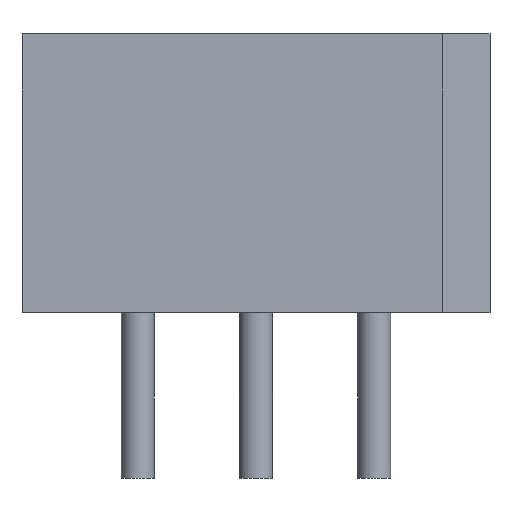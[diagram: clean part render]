
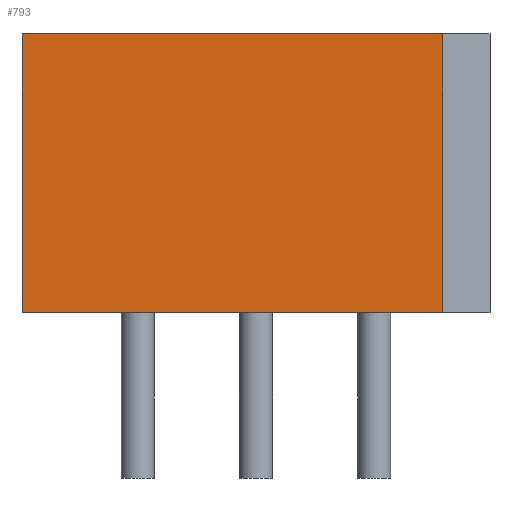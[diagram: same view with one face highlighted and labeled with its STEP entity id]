
A CAD part, front view. The second image highlights one B-rep face of the part: STEP entity #793.
In plain terms, the highlighted planar face has unit normal (0, -1, 0).
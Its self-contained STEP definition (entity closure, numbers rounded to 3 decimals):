
#62 = PLANE('',#63);
#63 = AXIS2_PLACEMENT_3D('',#64,#65,#66);
#64 = CARTESIAN_POINT('',(-2.45,3.1,0.));
#65 = DIRECTION('',(1.,0.,-0.));
#66 = DIRECTION('',(0.,0.,-1.));
#115 = VERTEX_POINT('',#116);
#116 = CARTESIAN_POINT('',(-2.45,-1.8,0.));
#130 = PLANE('',#131);
#131 = AXIS2_PLACEMENT_3D('',#132,#133,#134);
#132 = CARTESIAN_POINT('',(-2.45,3.1,0.));
#133 = DIRECTION('',(0.,0.,1.));
#134 = DIRECTION('',(-1.,0.,0.));
#142 = EDGE_CURVE('',#115,#143,#145,.T.);
#143 = VERTEX_POINT('',#144);
#144 = CARTESIAN_POINT('',(-2.45,-1.8,5.9));
#145 = SURFACE_CURVE('',#146,(#150,#157),.PCURVE_S1.);
#146 = LINE('',#147,#148);
#147 = CARTESIAN_POINT('',(-2.45,-1.8,0.));
#148 = VECTOR('',#149,1.);
#149 = DIRECTION('',(0.,0.,1.));
#150 = PCURVE('',#62,#151);
#151 = DEFINITIONAL_REPRESENTATION('',(#152),#156);
#152 = LINE('',#153,#154);
#153 = CARTESIAN_POINT('',(-0.,-4.9));
#154 = VECTOR('',#155,1.);
#155 = DIRECTION('',(-1.,0.));
#156 = ( GEOMETRIC_REPRESENTATION_CONTEXT(2) 
PARAMETRIC_REPRESENTATION_CONTEXT() REPRESENTATION_CONTEXT('2D SPACE',''
  ) );
#157 = PCURVE('',#158,#163);
#158 = PLANE('',#159);
#159 = AXIS2_PLACEMENT_3D('',#160,#161,#162);
#160 = CARTESIAN_POINT('',(-2.45,-1.8,0.));
#161 = DIRECTION('',(0.,-1.,0.));
#162 = DIRECTION('',(0.,0.,-1.));
#163 = DEFINITIONAL_REPRESENTATION('',(#164),#168);
#164 = LINE('',#165,#166);
#165 = CARTESIAN_POINT('',(-0.,0.));
#166 = VECTOR('',#167,1.);
#167 = DIRECTION('',(-1.,0.));
#168 = ( GEOMETRIC_REPRESENTATION_CONTEXT(2) 
PARAMETRIC_REPRESENTATION_CONTEXT() REPRESENTATION_CONTEXT('2D SPACE',''
  ) );
#186 = PLANE('',#187);
#187 = AXIS2_PLACEMENT_3D('',#188,#189,#190);
#188 = CARTESIAN_POINT('',(-2.45,3.1,5.9));
#189 = DIRECTION('',(0.,0.,1.));
#190 = DIRECTION('',(-1.,0.,0.));
#672 = VERTEX_POINT('',#673);
#673 = CARTESIAN_POINT('',(6.45,-1.8,5.9));
#687 = PLANE('',#688);
#688 = AXIS2_PLACEMENT_3D('',#689,#690,#691);
#689 = CARTESIAN_POINT('',(6.45,-1.8,0.));
#690 = DIRECTION('',(0.707,-0.707,-0.));
#691 = DIRECTION('',(-0.707,-0.707,0.));
#699 = EDGE_CURVE('',#143,#672,#700,.T.);
#700 = SURFACE_CURVE('',#701,(#705,#712),.PCURVE_S1.);
#701 = LINE('',#702,#703);
#702 = CARTESIAN_POINT('',(-2.45,-1.8,5.9));
#703 = VECTOR('',#704,1.);
#704 = DIRECTION('',(1.,0.,-0.));
#705 = PCURVE('',#186,#706);
#706 = DEFINITIONAL_REPRESENTATION('',(#707),#711);
#707 = LINE('',#708,#709);
#708 = CARTESIAN_POINT('',(-0.,4.9));
#709 = VECTOR('',#710,1.);
#710 = DIRECTION('',(-1.,0.));
#711 = ( GEOMETRIC_REPRESENTATION_CONTEXT(2) 
PARAMETRIC_REPRESENTATION_CONTEXT() REPRESENTATION_CONTEXT('2D SPACE',''
  ) );
#712 = PCURVE('',#158,#713);
#713 = DEFINITIONAL_REPRESENTATION('',(#714),#718);
#714 = LINE('',#715,#716);
#715 = CARTESIAN_POINT('',(-5.9,0.));
#716 = VECTOR('',#717,1.);
#717 = DIRECTION('',(-0.,1.));
#718 = ( GEOMETRIC_REPRESENTATION_CONTEXT(2) 
PARAMETRIC_REPRESENTATION_CONTEXT() REPRESENTATION_CONTEXT('2D SPACE',''
  ) );
#793 = ADVANCED_FACE('',(#794),#158,.T.);
#794 = FACE_BOUND('',#795,.F.);
#795 = EDGE_LOOP('',(#796,#819,#820,#821));
#796 = ORIENTED_EDGE('',*,*,#797,.F.);
#797 = EDGE_CURVE('',#115,#798,#800,.T.);
#798 = VERTEX_POINT('',#799);
#799 = CARTESIAN_POINT('',(6.45,-1.8,0.));
#800 = SURFACE_CURVE('',#801,(#805,#812),.PCURVE_S1.);
#801 = LINE('',#802,#803);
#802 = CARTESIAN_POINT('',(-2.45,-1.8,0.));
#803 = VECTOR('',#804,1.);
#804 = DIRECTION('',(1.,0.,-0.));
#805 = PCURVE('',#158,#806);
#806 = DEFINITIONAL_REPRESENTATION('',(#807),#811);
#807 = LINE('',#808,#809);
#808 = CARTESIAN_POINT('',(-0.,0.));
#809 = VECTOR('',#810,1.);
#810 = DIRECTION('',(-0.,1.));
#811 = ( GEOMETRIC_REPRESENTATION_CONTEXT(2) 
PARAMETRIC_REPRESENTATION_CONTEXT() REPRESENTATION_CONTEXT('2D SPACE',''
  ) );
#812 = PCURVE('',#130,#813);
#813 = DEFINITIONAL_REPRESENTATION('',(#814),#818);
#814 = LINE('',#815,#816);
#815 = CARTESIAN_POINT('',(-0.,4.9));
#816 = VECTOR('',#817,1.);
#817 = DIRECTION('',(-1.,0.));
#818 = ( GEOMETRIC_REPRESENTATION_CONTEXT(2) 
PARAMETRIC_REPRESENTATION_CONTEXT() REPRESENTATION_CONTEXT('2D SPACE',''
  ) );
#819 = ORIENTED_EDGE('',*,*,#142,.T.);
#820 = ORIENTED_EDGE('',*,*,#699,.T.);
#821 = ORIENTED_EDGE('',*,*,#822,.F.);
#822 = EDGE_CURVE('',#798,#672,#823,.T.);
#823 = SURFACE_CURVE('',#824,(#828,#835),.PCURVE_S1.);
#824 = LINE('',#825,#826);
#825 = CARTESIAN_POINT('',(6.45,-1.8,0.));
#826 = VECTOR('',#827,1.);
#827 = DIRECTION('',(-0.,-0.,1.));
#828 = PCURVE('',#158,#829);
#829 = DEFINITIONAL_REPRESENTATION('',(#830),#834);
#830 = LINE('',#831,#832);
#831 = CARTESIAN_POINT('',(-0.,8.9));
#832 = VECTOR('',#833,1.);
#833 = DIRECTION('',(-1.,0.));
#834 = ( GEOMETRIC_REPRESENTATION_CONTEXT(2) 
PARAMETRIC_REPRESENTATION_CONTEXT() REPRESENTATION_CONTEXT('2D SPACE',''
  ) );
#835 = PCURVE('',#687,#836);
#836 = DEFINITIONAL_REPRESENTATION('',(#837),#841);
#837 = LINE('',#838,#839);
#838 = CARTESIAN_POINT('',(-0.,0.));
#839 = VECTOR('',#840,1.);
#840 = DIRECTION('',(-0.,-1.));
#841 = ( GEOMETRIC_REPRESENTATION_CONTEXT(2) 
PARAMETRIC_REPRESENTATION_CONTEXT() REPRESENTATION_CONTEXT('2D SPACE',''
  ) );
